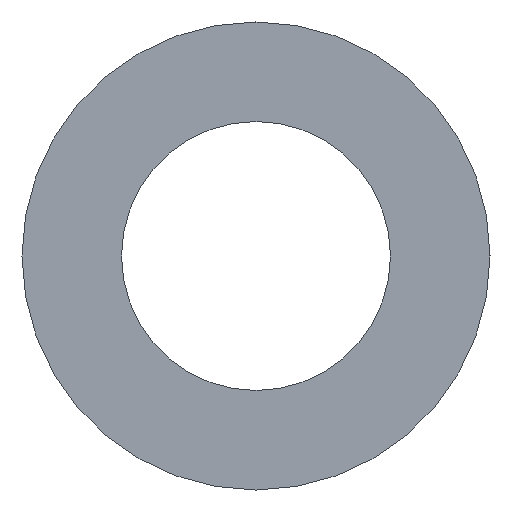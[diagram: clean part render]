
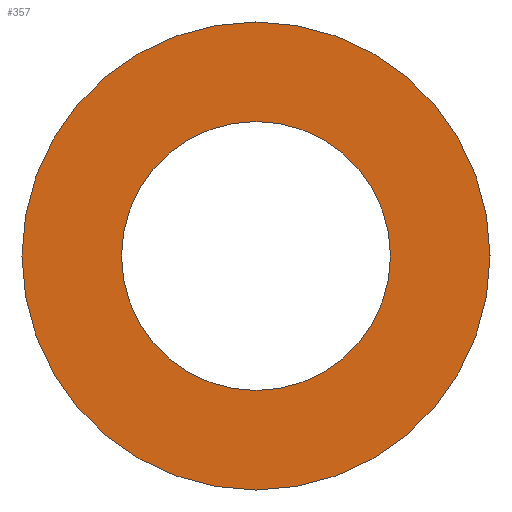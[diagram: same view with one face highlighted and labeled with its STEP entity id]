
A CAD part, left-side view. The second image highlights one B-rep face of the part: STEP entity #357.
In plain terms, the highlighted planar face has unit normal (-1, 0, 0).
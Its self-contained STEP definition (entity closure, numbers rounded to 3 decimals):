
#9 = CIRCLE ( 'NONE', #646, 2.5 ) ;
#11 = CARTESIAN_POINT ( 'NONE',  ( -12.7, 0., 0. ) ) ;
#14 = EDGE_CURVE ( 'NONE', #492, #276, #429, .T. ) ;
#56 = CARTESIAN_POINT ( 'NONE',  ( -12.7, 0., 4.35 ) ) ;
#76 = EDGE_LOOP ( 'NONE', ( #516, #641 ) ) ;
#86 = EDGE_CURVE ( 'NONE', #294, #362, #9, .T. ) ;
#112 = AXIS2_PLACEMENT_3D ( 'NONE', #135, #225, #282 ) ;
#135 = CARTESIAN_POINT ( 'NONE',  ( -12.7, 0., 0. ) ) ;
#147 = CARTESIAN_POINT ( 'NONE',  ( -12.7, 0., 0. ) ) ;
#167 = FACE_BOUND ( 'NONE', #76, .T. ) ;
#180 = DIRECTION ( 'NONE',  ( 0., 1., 0. ) ) ;
#184 = CARTESIAN_POINT ( 'NONE',  ( -12.7, 0., -4.35 ) ) ;
#200 = CARTESIAN_POINT ( 'NONE',  ( -12.7, 0., -2.5 ) ) ;
#216 = EDGE_LOOP ( 'NONE', ( #627, #242 ) ) ;
#223 = CIRCLE ( 'NONE', #534, 4.35 ) ;
#225 = DIRECTION ( 'NONE',  ( 1., 0., 0. ) ) ;
#232 = DIRECTION ( 'NONE',  ( 1., 0., 0. ) ) ;
#242 = ORIENTED_EDGE ( 'NONE', *, *, #14, .F. ) ;
#273 = EDGE_CURVE ( 'NONE', #362, #294, #614, .T. ) ;
#276 = VERTEX_POINT ( 'NONE', #184 ) ;
#282 = DIRECTION ( 'NONE',  ( 0., 0., -1. ) ) ;
#294 = VERTEX_POINT ( 'NONE', #645 ) ;
#305 = DIRECTION ( 'NONE',  ( 1., 0., 0. ) ) ;
#317 = AXIS2_PLACEMENT_3D ( 'NONE', #573, #520, #481 ) ;
#357 = ADVANCED_FACE ( 'NONE', ( #639, #167 ), #582, .T. ) ;
#362 = VERTEX_POINT ( 'NONE', #200 ) ;
#398 = AXIS2_PLACEMENT_3D ( 'NONE', #472, #404, #413 ) ;
#404 = DIRECTION ( 'NONE',  ( -1., 0., 0. ) ) ;
#413 = DIRECTION ( 'NONE',  ( 0., 0., 1. ) ) ;
#429 = CIRCLE ( 'NONE', #112, 4.35 ) ;
#472 = CARTESIAN_POINT ( 'NONE',  ( -12.7, 4.35, 0. ) ) ;
#481 = DIRECTION ( 'NONE',  ( 0., 1., 0. ) ) ;
#492 = VERTEX_POINT ( 'NONE', #56 ) ;
#516 = ORIENTED_EDGE ( 'NONE', *, *, #273, .T. ) ;
#517 = DIRECTION ( 'NONE',  ( 0., 0., -1. ) ) ;
#520 = DIRECTION ( 'NONE',  ( 1., 0., 0. ) ) ;
#527 = EDGE_CURVE ( 'NONE', #276, #492, #223, .T. ) ;
#534 = AXIS2_PLACEMENT_3D ( 'NONE', #147, #305, #517 ) ;
#573 = CARTESIAN_POINT ( 'NONE',  ( -12.7, 0., 0. ) ) ;
#582 = PLANE ( 'NONE',  #398 ) ;
#614 = CIRCLE ( 'NONE', #317, 2.5 ) ;
#627 = ORIENTED_EDGE ( 'NONE', *, *, #527, .F. ) ;
#639 = FACE_OUTER_BOUND ( 'NONE', #216, .T. ) ;
#641 = ORIENTED_EDGE ( 'NONE', *, *, #86, .T. ) ;
#645 = CARTESIAN_POINT ( 'NONE',  ( -12.7, 0., 2.5 ) ) ;
#646 = AXIS2_PLACEMENT_3D ( 'NONE', #11, #232, #180 ) ;
